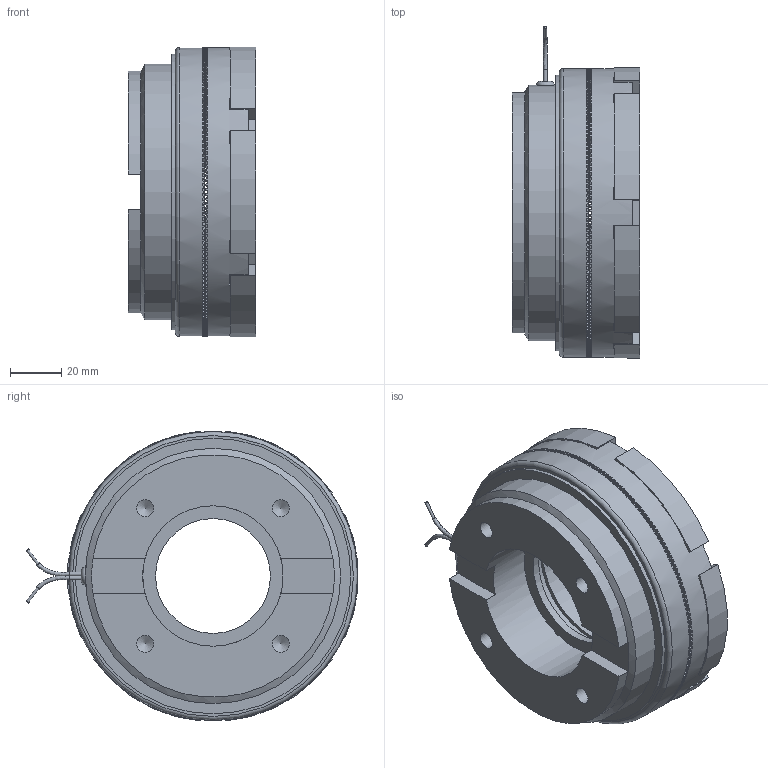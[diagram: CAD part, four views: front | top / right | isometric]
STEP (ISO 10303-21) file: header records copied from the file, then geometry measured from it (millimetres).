
FILE_DESCRIPTION(/* description */ (''),/* implementation_level */ '2;1');
FILE_NAME(/* name */ '\\Srv-tecnico\DATI\UFFICIO TECNICO\ARCHIVIO INVENTOR\DISEGNI\UFFICIO TECNICO\07_Innesti_Elettromagnetici_a_Dentini\07_09 EBLF_Z\07_09_114_01 EBLF114_Z\07_09_114_01 EBLF114_Z@STEP.stp',/* time_stamp */ '2015-04-08T16:21:22+02:00',/* author */ ('stefano'),/* organization */ (''),/* preprocessor_version */ 'ST-DEVELOPER v15.6',/* originating_system */ 'Autodesk Inventor 2015',/* authorisation */ '');
FILE_SCHEMA (('CONFIG_CONTROL_DESIGN'));
Products named in the file (1): 07_09_114_01 EBLF114_Z_Substitute_1
Bounding box: 50 x 130 x 113.56 mm (x, y, z)
Volume: 331529.8 mm3; surface area: 66796.4 mm2
Topology: 3 solids, 3 shells, 1769 faces, 5163 edges, 3414 vertices
Faces by surface type: plane 1668, cylinder 87, cone 10, torus 2, bspline 2
Full cylindrical faces by diameter (mm): 1.154 x2, 1.5 x2, 2.6 x3, 3.242 x3, 5.2 x3, 5.5 x3, 6 x1, 6.647 x4, 8 x3, 8.5 x3, 45 x1, 50 x1, 53 x2, 55 x1, 70 x1, 90 x1, 100 x1, 101 x1, 102.5 x1, 103 x1, 108 x1, 113 x2
Entity records: 61052 total; most frequent: DIRECTION 11761, CARTESIAN_POINT 10590, ORIENTED_EDGE 10194, EDGE_CURVE 5092, AXIS2_PLACEMENT_3D 4919, VERTEX_POINT 3395, LINE 1923, VECTOR 1923
